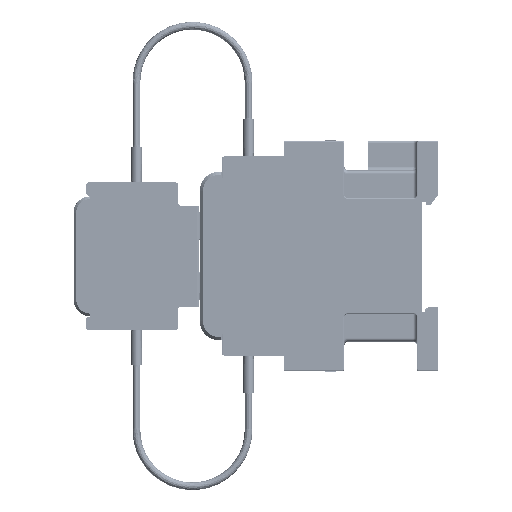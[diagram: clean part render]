
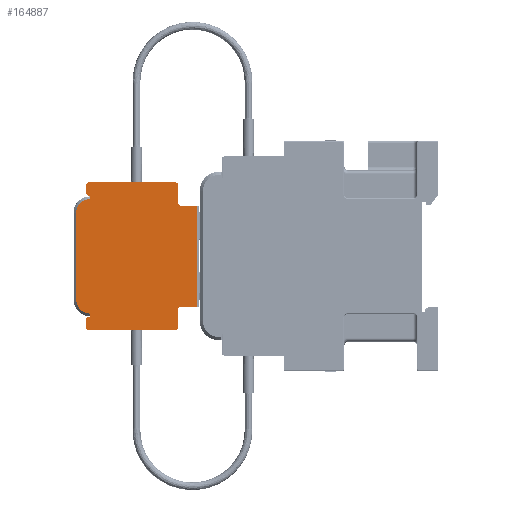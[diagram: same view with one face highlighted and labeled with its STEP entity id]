
A CAD part, left-side view. The second image highlights one B-rep face of the part: STEP entity #164887.
In plain terms, the highlighted planar face has unit normal (-1, 0, 0).
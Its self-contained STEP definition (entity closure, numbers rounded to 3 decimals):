
#17080=DIRECTION('',(0.,0.,1.));
#17081=VECTOR('',#17080,1.1);
#17082=CARTESIAN_POINT('',(-22.2,63.4,-19.6));
#17083=LINE('',#17082,#17081);
#17084=CARTESIAN_POINT('',(-22.2,63.4,-14.05));
#17085=DIRECTION('',(-1.,0.,0.));
#17086=DIRECTION('',(0.,1.,0.));
#17087=AXIS2_PLACEMENT_3D('',#17084,#17085,#17086);
#17089=DIRECTION('',(0.,0.,-1.));
#17090=VECTOR('',#17089,27.9);
#17091=CARTESIAN_POINT('',(-22.2,67.85,13.85));
#17092=LINE('',#17091,#17090);
#17093=CARTESIAN_POINT('',(-22.2,63.4,13.85));
#17094=DIRECTION('',(-1.,0.,0.));
#17095=DIRECTION('',(0.,0.,1.));
#17096=AXIS2_PLACEMENT_3D('',#17093,#17094,#17095);
#17098=DIRECTION('',(0.,0.,1.));
#17099=VECTOR('',#17098,1.1);
#17100=CARTESIAN_POINT('',(-22.2,63.4,18.3));
#17101=LINE('',#17100,#17099);
#17102=DIRECTION('',(0.,-1.,0.));
#17103=VECTOR('',#17102,0.3);
#17104=CARTESIAN_POINT('',(-22.2,63.7,19.4));
#17105=LINE('',#17104,#17103);
#17106=CARTESIAN_POINT('',(-22.2,63.7,20.4));
#17107=DIRECTION('',(-1.,0.,0.));
#17108=DIRECTION('',(0.,1.,0.));
#17109=AXIS2_PLACEMENT_3D('',#17106,#17107,#17108);
#17111=CARTESIAN_POINT('',(-22.2,63.7,22.7));
#17112=DIRECTION('',(-1.,0.,0.));
#17113=DIRECTION('',(0.,0.,1.));
#17114=AXIS2_PLACEMENT_3D('',#17111,#17112,#17113);
#17116=CARTESIAN_POINT('',(-22.2,36.1,22.7));
#17117=DIRECTION('',(-1.,0.,0.));
#17118=DIRECTION('',(0.,-1.,0.));
#17119=AXIS2_PLACEMENT_3D('',#17116,#17117,#17118);
#17121=DIRECTION('',(0.,0.,1.));
#17122=VECTOR('',#17121,5.6);
#17123=CARTESIAN_POINT('',(-22.2,35.1,17.1));
#17124=LINE('',#17123,#17122);
#17125=DIRECTION('',(0.,1.,0.));
#17126=VECTOR('',#17125,5.);
#17127=CARTESIAN_POINT('',(-22.2,29.1,16.1));
#17128=LINE('',#17127,#17126);
#17129=DIRECTION('',(0.,0.,-1.));
#17130=VECTOR('',#17129,32.4);
#17131=CARTESIAN_POINT('',(-22.2,29.1,16.1));
#17132=LINE('',#17131,#17130);
#17133=DIRECTION('',(0.,1.,0.));
#17134=VECTOR('',#17133,5.);
#17135=CARTESIAN_POINT('',(-22.2,29.1,-16.3));
#17136=LINE('',#17135,#17134);
#17137=DIRECTION('',(0.,0.,1.));
#17138=VECTOR('',#17137,5.6);
#17139=CARTESIAN_POINT('',(-22.2,35.1,-22.9));
#17140=LINE('',#17139,#17138);
#17141=CARTESIAN_POINT('',(-22.2,36.1,-22.9));
#17142=DIRECTION('',(-1.,0.,0.));
#17143=DIRECTION('',(0.,0.,-1.));
#17144=AXIS2_PLACEMENT_3D('',#17141,#17142,#17143);
#17146=DIRECTION('',(0.,1.,0.));
#17147=VECTOR('',#17146,27.6);
#17148=CARTESIAN_POINT('',(-22.2,36.1,-23.9));
#17149=LINE('',#17148,#17147);
#17150=CARTESIAN_POINT('',(-22.2,63.7,-22.9));
#17151=DIRECTION('',(-1.,0.,0.));
#17152=DIRECTION('',(0.,1.,0.));
#17153=AXIS2_PLACEMENT_3D('',#17150,#17151,#17152);
#17155=CARTESIAN_POINT('',(-22.2,63.7,-20.6));
#17156=DIRECTION('',(-1.,0.,0.));
#17157=DIRECTION('',(0.,0.,1.));
#17158=AXIS2_PLACEMENT_3D('',#17155,#17156,#17157);
#17160=DIRECTION('',(0.,-1.,0.));
#17161=VECTOR('',#17160,0.3);
#17162=CARTESIAN_POINT('',(-22.2,63.7,-19.6));
#17163=LINE('',#17162,#17161);
#17310=DIRECTION('',(0.,0.,1.));
#17311=VECTOR('',#17310,2.3);
#17312=CARTESIAN_POINT('',(-22.2,64.7,-22.9));
#17313=LINE('',#17312,#17311);
#17390=CARTESIAN_POINT('',(-22.2,34.1,-17.3));
#17391=DIRECTION('',(1.,0.,0.));
#17392=DIRECTION('',(0.,1.,0.));
#17393=AXIS2_PLACEMENT_3D('',#17390,#17391,#17392);
#18468=CARTESIAN_POINT('',(-22.2,34.1,17.1));
#18469=DIRECTION('',(1.,0.,0.));
#18470=DIRECTION('',(0.,0.,-1.));
#18471=AXIS2_PLACEMENT_3D('',#18468,#18469,#18470);
#18495=DIRECTION('',(0.,1.,0.));
#18496=VECTOR('',#18495,27.6);
#18497=CARTESIAN_POINT('',(-22.2,36.1,23.7));
#18498=LINE('',#18497,#18496);
#112739=DIRECTION('',(0.,0.,1.));
#112740=VECTOR('',#112739,2.3);
#112741=CARTESIAN_POINT('',(-22.2,64.7,20.4));
#112742=LINE('',#112741,#112740);
#133704=CARTESIAN_POINT('',(-22.2,63.4,19.4));
#133706=VERTEX_POINT('',#133704);
#133741=CARTESIAN_POINT('',(-22.2,63.4,-19.6));
#133743=VERTEX_POINT('',#133741);
#134632=CARTESIAN_POINT('',(-22.2,35.1,22.7));
#134634=VERTEX_POINT('',#134632);
#134636=CARTESIAN_POINT('',(-22.2,36.1,23.7));
#134637=VERTEX_POINT('',#134636);
#134640=CARTESIAN_POINT('',(-22.2,36.1,-23.9));
#134641=CARTESIAN_POINT('',(-22.2,35.1,-22.9));
#134642=VERTEX_POINT('',#134640);
#134643=VERTEX_POINT('',#134641);
#134712=CARTESIAN_POINT('',(-22.2,64.7,-22.9));
#134713=CARTESIAN_POINT('',(-22.2,63.7,-23.9));
#134714=VERTEX_POINT('',#134712);
#134715=VERTEX_POINT('',#134713);
#134724=CARTESIAN_POINT('',(-22.2,63.7,23.7));
#134725=VERTEX_POINT('',#134724);
#134726=CARTESIAN_POINT('',(-22.2,64.7,22.7));
#134727=VERTEX_POINT('',#134726);
#135362=CARTESIAN_POINT('',(-22.2,29.1,-16.3));
#135364=VERTEX_POINT('',#135362);
#135365=CARTESIAN_POINT('',(-22.2,29.1,16.1));
#135366=VERTEX_POINT('',#135365);
#135370=CARTESIAN_POINT('',(-22.2,35.1,17.1));
#135372=VERTEX_POINT('',#135370);
#135374=CARTESIAN_POINT('',(-22.2,34.1,16.1));
#135376=VERTEX_POINT('',#135374);
#135385=CARTESIAN_POINT('',(-22.2,35.1,-17.3));
#135387=VERTEX_POINT('',#135385);
#135389=CARTESIAN_POINT('',(-22.2,34.1,-16.3));
#135391=VERTEX_POINT('',#135389);
#135453=CARTESIAN_POINT('',(-22.2,63.7,-19.6));
#135454=VERTEX_POINT('',#135453);
#135455=CARTESIAN_POINT('',(-22.2,64.7,-20.6));
#135456=VERTEX_POINT('',#135455);
#135457=CARTESIAN_POINT('',(-22.2,64.7,20.4));
#135458=CARTESIAN_POINT('',(-22.2,63.7,19.4));
#135459=VERTEX_POINT('',#135457);
#135460=VERTEX_POINT('',#135458);
#144774=CARTESIAN_POINT('',(-22.2,67.85,13.85));
#144775=CARTESIAN_POINT('',(-22.2,67.85,-14.05));
#144776=VERTEX_POINT('',#144774);
#144777=VERTEX_POINT('',#144775);
#145174=CARTESIAN_POINT('',(-22.2,63.4,-18.5));
#145175=VERTEX_POINT('',#145174);
#145176=CARTESIAN_POINT('',(-22.2,63.4,18.3));
#145177=VERTEX_POINT('',#145176);
#164835=CARTESIAN_POINT('',(-22.2,28.3,-23.9));
#164836=DIRECTION('',(-1.,0.,0.));
#164837=DIRECTION('',(0.,0.,1.));
#164838=AXIS2_PLACEMENT_3D('',#164835,#164836,#164837);
#164839=PLANE('',#164838);
#164841=ORIENTED_EDGE('',*,*,#164840,.T.);
#164843=ORIENTED_EDGE('',*,*,#164842,.F.);
#164845=ORIENTED_EDGE('',*,*,#164844,.F.);
#164847=ORIENTED_EDGE('',*,*,#164846,.F.);
#164848=ORIENTED_EDGE('',*,*,#164800,.T.);
#164849=ORIENTED_EDGE('',*,*,#164814,.F.);
#164850=ORIENTED_EDGE('',*,*,#164826,.F.);
#164852=ORIENTED_EDGE('',*,*,#164851,.T.);
#164854=ORIENTED_EDGE('',*,*,#164853,.F.);
#164856=ORIENTED_EDGE('',*,*,#164855,.F.);
#164858=ORIENTED_EDGE('',*,*,#164857,.F.);
#164860=ORIENTED_EDGE('',*,*,#164859,.F.);
#164862=ORIENTED_EDGE('',*,*,#164861,.F.);
#164864=ORIENTED_EDGE('',*,*,#164863,.F.);
#164866=ORIENTED_EDGE('',*,*,#164865,.T.);
#164868=ORIENTED_EDGE('',*,*,#164867,.T.);
#164870=ORIENTED_EDGE('',*,*,#164869,.F.);
#164872=ORIENTED_EDGE('',*,*,#164871,.F.);
#164874=ORIENTED_EDGE('',*,*,#164873,.F.);
#164876=ORIENTED_EDGE('',*,*,#164875,.T.);
#164878=ORIENTED_EDGE('',*,*,#164877,.F.);
#164880=ORIENTED_EDGE('',*,*,#164879,.T.);
#164882=ORIENTED_EDGE('',*,*,#164881,.F.);
#164884=ORIENTED_EDGE('',*,*,#164883,.T.);
#164885=EDGE_LOOP('',(#164841,#164843,#164845,#164847,#164848,#164849,#164850,
#164852,#164854,#164856,#164858,#164860,#164862,#164864,#164866,#164868,#164870,
#164872,#164874,#164876,#164878,#164880,#164882,#164884));
#164886=FACE_OUTER_BOUND('',#164885,.F.);
#164887=ADVANCED_FACE('',(#164886),#164839,.T.);
#17088=CIRCLE('',#17087,4.45);
#17097=CIRCLE('',#17096,4.45);
#17110=CIRCLE('',#17109,1.);
#17115=CIRCLE('',#17114,1.);
#17120=CIRCLE('',#17119,1.);
#17145=CIRCLE('',#17144,1.);
#17154=CIRCLE('',#17153,1.);
#17159=CIRCLE('',#17158,1.);
#17394=CIRCLE('',#17393,1.);
#18472=CIRCLE('',#18471,1.);
#164800=EDGE_CURVE('',#145177,#133706,#17101,.T.);
#164814=EDGE_CURVE('',#135460,#133706,#17105,.T.);
#164826=EDGE_CURVE('',#135459,#135460,#17110,.T.);
#164840=EDGE_CURVE('',#133743,#145175,#17083,.T.);
#164842=EDGE_CURVE('',#144777,#145175,#17088,.T.);
#164844=EDGE_CURVE('',#144776,#144777,#17092,.T.);
#164846=EDGE_CURVE('',#145177,#144776,#17097,.T.);
#164851=EDGE_CURVE('',#135459,#134727,#112742,.T.);
#164853=EDGE_CURVE('',#134725,#134727,#17115,.T.);
#164855=EDGE_CURVE('',#134637,#134725,#18498,.T.);
#164857=EDGE_CURVE('',#134634,#134637,#17120,.T.);
#164859=EDGE_CURVE('',#135372,#134634,#17124,.T.);
#164861=EDGE_CURVE('',#135376,#135372,#18472,.T.);
#164863=EDGE_CURVE('',#135366,#135376,#17128,.T.);
#164865=EDGE_CURVE('',#135366,#135364,#17132,.T.);
#164867=EDGE_CURVE('',#135364,#135391,#17136,.T.);
#164869=EDGE_CURVE('',#135387,#135391,#17394,.T.);
#164871=EDGE_CURVE('',#134643,#135387,#17140,.T.);
#164873=EDGE_CURVE('',#134642,#134643,#17145,.T.);
#164875=EDGE_CURVE('',#134642,#134715,#17149,.T.);
#164877=EDGE_CURVE('',#134714,#134715,#17154,.T.);
#164879=EDGE_CURVE('',#134714,#135456,#17313,.T.);
#164881=EDGE_CURVE('',#135454,#135456,#17159,.T.);
#164883=EDGE_CURVE('',#135454,#133743,#17163,.T.);
